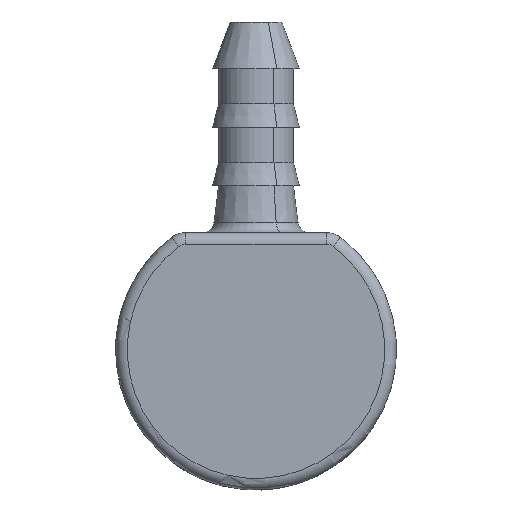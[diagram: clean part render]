
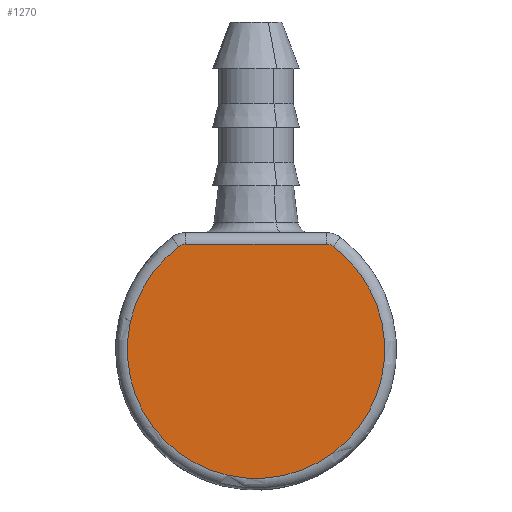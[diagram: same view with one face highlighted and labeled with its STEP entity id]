
A CAD part, front view. The second image highlights one B-rep face of the part: STEP entity #1270.
In plain terms, the highlighted planar face has unit normal (0, -1, 0).
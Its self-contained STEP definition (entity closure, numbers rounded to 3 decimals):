
#1220=AXIS2_PLACEMENT_3D('Plane Axis2P3D',#1217,#1218,#1219) ;
#1217=CARTESIAN_POINT('Axis2P3D Location',(0.,-3.,0.)) ;
#1222=CARTESIAN_POINT('Line Origine',(0.,-3.,4.5)) ;
#1226=CARTESIAN_POINT('Vertex',(3.,-3.,4.5)) ;
#1228=CARTESIAN_POINT('Vertex',(-3.,-3.,4.5)) ;
#1232=CARTESIAN_POINT('Control Point',(-3.,-3.,4.5)) ;
#1233=CARTESIAN_POINT('Control Point',(-3.107,-3.,4.5)) ;
#1234=CARTESIAN_POINT('Control Point',(-3.214,-3.,4.464)) ;
#1235=CARTESIAN_POINT('Control Point',(-3.3,-3.,4.4)) ;
#1236=CARTESIAN_POINT('Vertex',(-3.3,-3.,4.4)) ;
#1240=CARTESIAN_POINT('Control Point',(-3.3,-3.,4.4)) ;
#1241=CARTESIAN_POINT('Control Point',(-4.399,-3.,3.576)) ;
#1242=CARTESIAN_POINT('Control Point',(-5.241,-3.,2.408)) ;
#1243=CARTESIAN_POINT('Control Point',(-5.68,-3.,1.003)) ;
#1244=CARTESIAN_POINT('Control Point',(-5.625,-3.,-1.875)) ;
#1245=CARTESIAN_POINT('Control Point',(-3.942,-3.,-4.21)) ;
#1246=CARTESIAN_POINT('Control Point',(-2.748,-3.,-5.071)) ;
#1247=CARTESIAN_POINT('Control Point',(0.,-3.,-5.929)) ;
#1248=CARTESIAN_POINT('Control Point',(2.748,-3.,-5.071)) ;
#1249=CARTESIAN_POINT('Control Point',(3.942,-3.,-4.21)) ;
#1250=CARTESIAN_POINT('Control Point',(5.625,-3.,-1.875)) ;
#1251=CARTESIAN_POINT('Control Point',(5.68,-3.,1.003)) ;
#1252=CARTESIAN_POINT('Control Point',(5.241,-3.,2.408)) ;
#1253=CARTESIAN_POINT('Control Point',(4.399,-3.,3.576)) ;
#1254=CARTESIAN_POINT('Control Point',(3.3,-3.,4.4)) ;
#1255=CARTESIAN_POINT('Vertex',(3.3,-3.,4.4)) ;
#1259=CARTESIAN_POINT('Control Point',(3.3,-3.,4.4)) ;
#1260=CARTESIAN_POINT('Control Point',(3.214,-3.,4.464)) ;
#1261=CARTESIAN_POINT('Control Point',(3.107,-3.,4.5)) ;
#1262=CARTESIAN_POINT('Control Point',(3.,-3.,4.5)) ;
#1218=DIRECTION('Axis2P3D Direction',(0.,-1.,0.)) ;
#1219=DIRECTION('Axis2P3D XDirection',(1.,0.,0.)) ;
#1223=DIRECTION('Vector Direction',(1.,0.,0.)) ;
#1224=VECTOR('Line Direction',#1223,1.) ;
#1265=ORIENTED_EDGE('',*,*,#1230,.T.) ;
#1266=ORIENTED_EDGE('',*,*,#1238,.T.) ;
#1267=ORIENTED_EDGE('',*,*,#1257,.T.) ;
#1268=ORIENTED_EDGE('',*,*,#1263,.T.) ;
#1270=ADVANCED_FACE('\X2\96F64EF651E04F554F53\X0\',(#1269),#1221,.T.) ;
#1231=B_SPLINE_CURVE_WITH_KNOTS('',3,(#1232,#1233,#1234,#1235),.UNSPECIFIED.,.F.,.U.,(4,4),(0.785,1.107),.UNSPECIFIED.) ;
#1239=B_SPLINE_CURVE_WITH_KNOTS('',5,(#1240,#1241,#1242,#1243,#1244,#1245,#1246,#1247,#1248,#1249,#1250,#1251,#1252,#1253,#1254),.UNSPECIFIED.,.F.,.U.,(6,3,3,3,6),(12.179,19.048,25.918,32.788,39.658),.UNSPECIFIED.) ;
#1258=B_SPLINE_CURVE_WITH_KNOTS('',3,(#1259,#1260,#1261,#1262),.UNSPECIFIED.,.F.,.U.,(4,4),(0.464,0.785),.UNSPECIFIED.) ;
#1230=EDGE_CURVE('',#1227,#1229,#1225,.F.) ;
#1238=EDGE_CURVE('',#1229,#1237,#1231,.T.) ;
#1257=EDGE_CURVE('',#1237,#1256,#1239,.T.) ;
#1263=EDGE_CURVE('',#1256,#1227,#1258,.T.) ;
#1264=EDGE_LOOP('',(#1265,#1266,#1267,#1268)) ;
#1269=FACE_OUTER_BOUND('',#1264,.T.) ;
#1225=LINE('Line',#1222,#1224) ;
#1221=PLANE('Plane',#1220) ;
#1227=VERTEX_POINT('',#1226) ;
#1229=VERTEX_POINT('',#1228) ;
#1237=VERTEX_POINT('',#1236) ;
#1256=VERTEX_POINT('',#1255) ;
